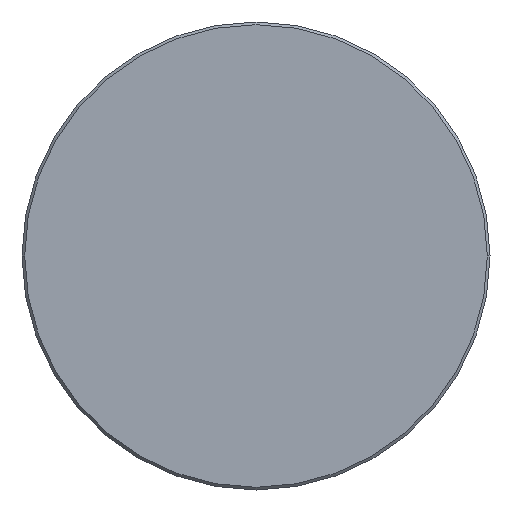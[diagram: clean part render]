
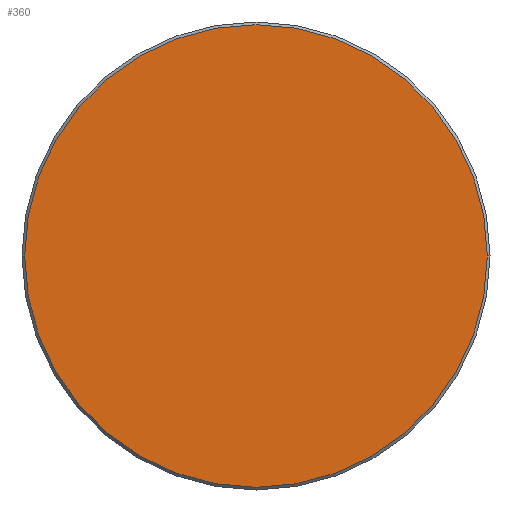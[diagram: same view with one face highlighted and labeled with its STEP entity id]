
A CAD part, left-side view. The second image highlights one B-rep face of the part: STEP entity #360.
In plain terms, the highlighted planar face has unit normal (-1, 0, 0).
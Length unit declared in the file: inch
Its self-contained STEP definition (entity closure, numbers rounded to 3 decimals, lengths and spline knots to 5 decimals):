
#12 = ORIENTED_EDGE ( 'NONE', *, *, #305, .T. ) ;
#19 = FACE_OUTER_BOUND ( 'NONE', #270, .T. ) ;
#41 = DIRECTION ( 'NONE',  ( -1., 0., 0. ) ) ;
#54 = CARTESIAN_POINT ( 'NONE',  ( 0., 0.33975, 0. ) ) ;
#72 = EDGE_CURVE ( 'NONE', #113, #354, #356, .T. ) ;
#81 = DIRECTION ( 'NONE',  ( -1., 0., 0. ) ) ;
#89 = CARTESIAN_POINT ( 'NONE',  ( 0., 0., 0. ) ) ;
#113 = VERTEX_POINT ( 'NONE', #54 ) ;
#121 = CIRCLE ( 'NONE', #288, 0.33975 ) ;
#136 = CARTESIAN_POINT ( 'NONE',  ( 0., 0., 0. ) ) ;
#172 = DIRECTION ( 'NONE',  ( 0., -1., 0. ) ) ;
#176 = PLANE ( 'NONE',  #211 ) ;
#203 = CARTESIAN_POINT ( 'NONE',  ( 0., -0.33975, 0. ) ) ;
#211 = AXIS2_PLACEMENT_3D ( 'NONE', #318, #41, #262 ) ;
#220 = AXIS2_PLACEMENT_3D ( 'NONE', #89, #81, #272 ) ;
#262 = DIRECTION ( 'NONE',  ( 0., -1., 0. ) ) ;
#270 = EDGE_LOOP ( 'NONE', ( #334, #12 ) ) ;
#272 = DIRECTION ( 'NONE',  ( 0., -1., 0. ) ) ;
#288 = AXIS2_PLACEMENT_3D ( 'NONE', #136, #337, #172 ) ;
#305 = EDGE_CURVE ( 'NONE', #354, #113, #121, .T. ) ;
#318 = CARTESIAN_POINT ( 'NONE',  ( 0., 0., 0. ) ) ;
#334 = ORIENTED_EDGE ( 'NONE', *, *, #72, .T. ) ;
#337 = DIRECTION ( 'NONE',  ( -1., 0., 0. ) ) ;
#354 = VERTEX_POINT ( 'NONE', #203 ) ;
#356 = CIRCLE ( 'NONE', #220, 0.33975 ) ;
#360 = ADVANCED_FACE ( 'NONE', ( #19 ), #176, .T. ) ;
